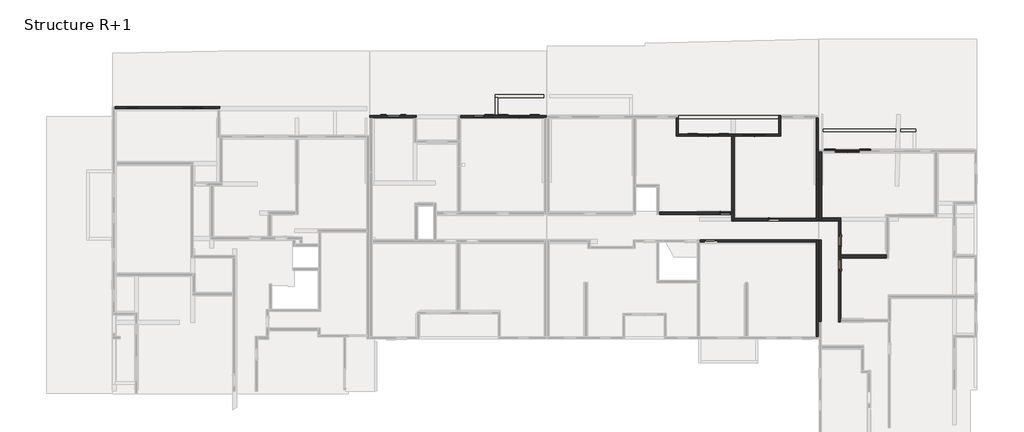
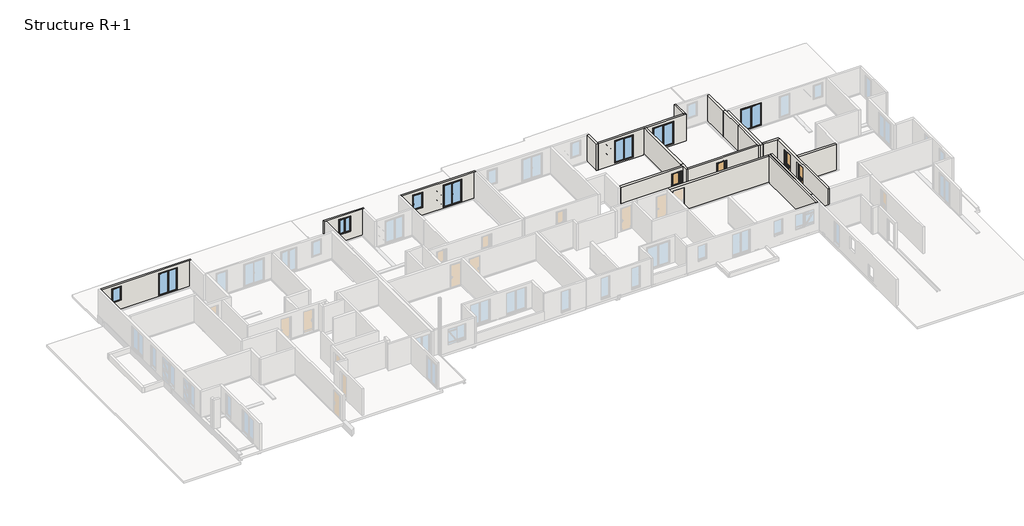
# One storey, part 6 of 11: 25 walls, 8 windows, 4 doors.
"""IFC4 building model written with IfcOpenShell, lengths in millimetres."""

from ifc_helpers import new_model, si_unit, frame, origin, place, context, project, spatial, polyline, outline, extrude, faceted_brep, transform, mapped, element, save
from components import door_88e42b76, door_d45fdbb8, door_280daffa, window_4f2076fb, window_e9bb7084, window_1_vantail_droit_15c7afe6, window_1_60m_x_2_15m_1bfb613b, window_1_60m_x_2_15m_e7e592b5, window_1_60m_x_2_15m_4a639791, window_1_80m_x_2_15m_7d3a4370, window_1_80m_x_2_15m_c17098d0

model = new_model("IFC4")

# Units and contexts
model_context = context("Model", 3, world=origin())
ifc_project = project(units=[si_unit("LENGTHUNIT", "METRE", prefix="MILLI")], contexts=[model_context])

# Site, building, storey
site = spatial("IfcSite", under=ifc_project)
building = spatial("IfcBuilding", under=site)
storey = spatial("IfcBuildingStorey", under=building, Name="Structure R+1", Elevation=3320.0)

# Doors
placement = place(None, origin())
door_shape = door_88e42b76(model_context)
element("IfcDoor", 1, ObjectType="Entrée (avec angle d'ouverture) : PP Avec moulures (0.90 m x 2.15 m)", at=placement, inside=storey, context=model_context, shape_type="MappedRepresentation", body=[
    mapped(door_shape, transform((51897.3928747, 24372.4952381, 3320.0), x_axis=(1.0, 0.0, 0.0), y_axis=(0.0, 1.0, 0.0), z_axis=(0.0, 0.0, 1.0))),
])
door_2_shape = door_d45fdbb8(model_context)
element("IfcDoor", 2, ObjectType="Entrée (avec angle d'ouverture) : PP Avec moulures (0.90 m x 2.15 m)", at=placement, inside=storey, context=model_context, shape_type="MappedRepresentation", body=[
    mapped(door_2_shape, transform((60989.2327219, 20265.8620351, 3320.0), x_axis=(0.0, 1.0, 0.0), y_axis=(-1.0, 0.0, 0.0), z_axis=(0.0, 0.0, 1.0))),
])
door_3_shape = door_280daffa(model_context)
element("IfcDoor", 3, ObjectType="Entrée (avec angle d'ouverture) : PP Avec moulures (0.90 m x 2.15 m)", at=placement, inside=storey, context=model_context, shape_type="MappedRepresentation", body=[
    mapped(door_3_shape, transform((55757.3928747, 23877.4942338, 3320.0), x_axis=(1.0, 0.0, 0.0), y_axis=(0.0, 1.0, 0.0), z_axis=(0.0, 0.0, 1.0))),
])
element("IfcDoor", 4, ObjectType="Entrée (avec angle d'ouverture) : PP Avec moulures (0.90 m x 2.15 m)", at=placement, inside=storey, context=model_context, shape_type="MappedRepresentation", body=[
    mapped(door_3_shape, transform((60989.2327219, 22254.6274913, 3320.0), x_axis=(0.0, -1.0, 0.0), y_axis=(1.0, 0.0, 0.0), z_axis=(0.0, 0.0, 1.0))),
])

# Walls
element("IfcWall", 5, ObjectType="Ext. Voile BA 16 + Isolant 12 sans enduit", at=placement, inside=storey, context=model_context, shape_type="SweptSolid", body=[
    extrude(outline(polyline([(59132.9661689, 27052.4942338), (59132.9661689, 29387.496363), (59292.9661689, 29387.496363), (59292.9661689, 27052.4942338), (59132.9661689, 27052.4942338)])), frame((0.0, 0.0, 3230.0), z_axis=(0.0, 0.0, 1.0), x_axis=(1.0, 0.0, 0.0)), (0.0, 0.0, 1.0), 2600.0),
])
element("IfcWall", 6, ObjectType="Ext. Voile BA 16 + Isolant 120", at=placement, inside=storey, context=model_context, shape_type="Brep", body=[
    faceted_brep([(23871.9389593, 31947.4974719, 3230.0), (24031.9389593, 31947.4974719, 3230.0), (27364.3814808, 31947.4974719, 3230.0), (27524.3814808, 31947.4974719, 3230.0), (27524.3814808, 31947.4974719, 5830.0), (27444.3814808, 31947.4974719, 5830.0), (27364.3814808, 31947.4974719, 5830.0), (24031.9389593, 31947.4974719, 5830.0), (23871.9389593, 31947.4974719, 5830.0), (26224.3814808, 31947.4974719, 4055.0), (25224.3814808, 31947.4974719, 4055.0), (25174.3814808, 31947.4974719, 4055.0), (25174.3814808, 31947.4974719, 5555.0), (26274.3814808, 31947.4974719, 5555.0), (26274.3814808, 31947.4974719, 4055.0), (27524.3814808, 32107.4974719, 3230.0), (23871.9389593, 32107.4974719, 3230.0), (23871.9389593, 32107.4974719, 5830.0), (27444.3814808, 32107.4974719, 5830.0), (27524.3814808, 32107.4974719, 5830.0), (25224.3814808, 32107.4974719, 5505.0), (25224.3814808, 32107.4974719, 3975.0), (26224.3814808, 32107.4974719, 3975.0), (26224.3814808, 32107.4974719, 5505.0), (25224.3814808, 32027.4974719, 4055.0), (25224.3814808, 32027.4974719, 3975.0), (25224.3814808, 32047.4974719, 5505.0), (25224.3814808, 32047.4974719, 4055.0), (26224.3814808, 32027.4974719, 3975.0), (26224.3814808, 32027.4974719, 4055.0), (26224.3814808, 32047.4974719, 4055.0), (26224.3814808, 32047.4974719, 5505.0), (25214.3814808, 32047.4974719, 4055.0), (25214.3814808, 31997.4974719, 4055.0), (25174.3814808, 31997.4974719, 4055.0), (26274.3814808, 31997.4974719, 4055.0), (26234.3814808, 31997.4974719, 4055.0), (26234.3814808, 32047.4974719, 4055.0), (25174.3814808, 31997.4974719, 5555.0), (26274.3814808, 31997.4974719, 5555.0), (25214.3814808, 31997.4974719, 5515.0), (26234.3814808, 31997.4974719, 5515.0), (25214.3814808, 32047.4974719, 5515.0), (26234.3814808, 32047.4974719, 5515.0)], [[[0, 1, 2, 3, 4, 5, 6, 7, 8], [9, 10, 11, 12, 13, 14]], [[15, 16, 17, 18, 19], [20, 21, 22, 23]], [[3, 2, 1, 0, 16, 15]], [[8, 7, 6, 5, 4, 19, 18, 17]], [[4, 3, 15, 19]], [[24, 25, 21, 20, 26, 27]], [[28, 29, 30, 31, 23, 22]], [[24, 27, 32, 33, 34, 11, 10, 9, 14, 35, 36, 37, 30, 29]], [[31, 26, 20, 23]], [[25, 28, 22, 21]], [[25, 24, 29, 28]], [[11, 34, 38, 12]], [[36, 35, 39, 38, 34, 33, 40, 41]], [[33, 32, 42, 40]], [[27, 26, 31, 30, 37, 43, 42, 32]], [[12, 38, 39, 13]], [[41, 40, 42, 43]], [[35, 14, 13, 39]], [[37, 36, 41, 43]], [[8, 17, 16, 0]]]),
])
element("IfcWall", 7, ObjectType="Ext. Voile BA 16 + Isolant 120", at=placement, inside=storey, context=model_context, shape_type="Brep", body=[
    faceted_brep([(30984.3814808, 31947.4972516, 3230.0), (37648.3832806, 31947.4972516, 3230.0), (37808.3832806, 31947.4972516, 3230.0), (37808.3832806, 31947.4972516, 5830.0), (37648.3832806, 31947.4972516, 5830.0), (30984.3814808, 31947.4972516, 5830.0), (32864.3814808, 31947.4972516, 4055.0), (32064.3814808, 31947.4972516, 4055.0), (32014.3814808, 31947.4972516, 4055.0), (32014.3814808, 31947.4972516, 5555.0), (32914.3814808, 31947.4972516, 5555.0), (32914.3814808, 31947.4972516, 4055.0), (36445.3833051, 31947.4972516, 3355.0), (34845.3833051, 31947.4972516, 3355.0), (34795.3833051, 31947.4972516, 3355.0), (34795.3833051, 31947.4972516, 5555.0), (36495.3833051, 31947.4972516, 5555.0), (36495.3833051, 31947.4972516, 3355.0), (37808.3832806, 32107.4972516, 3230.0), (30984.3814808, 32107.4972516, 3230.0), (30984.3814808, 32107.4972516, 5830.0), (37808.3832806, 32107.4972516, 5830.0), (32064.3814808, 32107.4972516, 5505.0), (32064.3814808, 32107.4972516, 3975.0), (32864.3814808, 32107.4972516, 3975.0), (32864.3814808, 32107.4972516, 5505.0), (34845.3833051, 32107.4972516, 5505.0), (34845.3833051, 32107.4972516, 3346.5916612), (36445.3833051, 32107.4972516, 3346.5916612), (36445.3833051, 32107.4972516, 5505.0), (32064.3814808, 32027.4972516, 4055.0), (32064.3814808, 32027.4972516, 3975.0), (32064.3814808, 32047.4972516, 5505.0), (32064.3814808, 32047.4972516, 4055.0), (32864.3814808, 32027.4972516, 3975.0), (32864.3814808, 32027.4972516, 4055.0), (32864.3814808, 32047.4972516, 4055.0), (32864.3814808, 32047.4972516, 5505.0), (32054.3814808, 32047.4972516, 4055.0), (32054.3814808, 31997.4972516, 4055.0), (32014.3814808, 31997.4972516, 4055.0), (32914.3814808, 31997.4972516, 4055.0), (32874.3814808, 31997.4972516, 4055.0), (32874.3814808, 32047.4972516, 4055.0), (32014.3814808, 31997.4972516, 5555.0), (32914.3814808, 31997.4972516, 5555.0), (32054.3814808, 31997.4972516, 5515.0), (32874.3814808, 31997.4972516, 5515.0), (32054.3814808, 32047.4972516, 5515.0), (32874.3814808, 32047.4972516, 5515.0), (34845.3833051, 32047.4972516, 5505.0), (34845.3833051, 32047.4972516, 3355.0), (34845.3833051, 32027.4972516, 3355.0), (36445.3833051, 32027.4972516, 3355.0), (36445.3833051, 32047.4972516, 3355.0), (36445.3833051, 32047.4972516, 5505.0), (34835.3833051, 32047.4972516, 3355.0), (34835.3833051, 31997.4972516, 3355.0), (34795.3833051, 31997.4972516, 3355.0), (36495.3833051, 31997.4972516, 3355.0), (36455.3833051, 31997.4972516, 3355.0), (36455.3833051, 32047.4972516, 3355.0), (34795.3833051, 31997.4972516, 5555.0), (36495.3833051, 31997.4972516, 5555.0), (34835.3833051, 31997.4972516, 5515.0), (36455.3833051, 31997.4972516, 5515.0), (34835.3833051, 32047.4972516, 5515.0), (36455.3833051, 32047.4972516, 5515.0)], [[[0, 1, 2, 3, 4, 5], [6, 7, 8, 9, 10, 11], [12, 13, 14, 15, 16, 17]], [[18, 19, 20, 21], [22, 23, 24, 25], [26, 27, 28, 29]], [[2, 1, 0, 19, 18]], [[5, 4, 3, 21, 20]], [[0, 5, 20, 19]], [[30, 31, 23, 22, 32, 33]], [[34, 35, 36, 37, 25, 24]], [[30, 33, 38, 39, 40, 8, 7, 6, 11, 41, 42, 43, 36, 35]], [[37, 32, 22, 25]], [[31, 34, 24, 23]], [[31, 30, 35, 34]], [[8, 40, 44, 9]], [[42, 41, 45, 44, 40, 39, 46, 47]], [[39, 38, 48, 46]], [[33, 32, 37, 36, 43, 49, 48, 38]], [[9, 44, 45, 10]], [[47, 46, 48, 49]], [[41, 11, 10, 45]], [[43, 42, 47, 49]], [[50, 51, 52, 27, 26]], [[53, 54, 55, 29, 28]], [[52, 51, 56, 57, 58, 14, 13, 12, 17, 59, 60, 61, 54, 53]], [[55, 50, 26, 29]], [[52, 53, 28, 27]], [[14, 58, 62, 15]], [[60, 59, 63, 62, 58, 57, 64, 65]], [[57, 56, 66, 64]], [[51, 50, 55, 54, 61, 67, 66, 56]], [[15, 62, 63, 16]], [[65, 64, 66, 67]], [[59, 17, 16, 63]], [[61, 60, 65, 67]], [[2, 18, 21, 3]]]),
])
element("IfcWall", 8, ObjectType="Ext. Voile BA 16 + Isolant 120", at=placement, inside=storey, context=model_context, shape_type="Brep", body=[
    faceted_brep([(3696.9058449, 32650.6398567, 5830.0), (3696.9058449, 32650.6398567, 3230.0), (11831.9058449, 32650.6398567, 3230.0), (11991.9058449, 32650.6398567, 3230.0), (11991.9058449, 32650.6398567, 5830.0), (11831.9058449, 32650.6398567, 5830.0), (5566.9058449, 32650.6398567, 4155.0), (4666.9058449, 32650.6398567, 4155.0), (4666.9058449, 32650.6398567, 5555.0), (5566.9058449, 32650.6398567, 5555.0), (10721.9058449, 32650.6398567, 3355.0), (9021.9058449, 32650.6398567, 3355.0), (9021.9058449, 32650.6398567, 5555.0), (10721.9058449, 32650.6398567, 5555.0), (3696.9058449, 32810.6398567, 3230.0), (3696.9058449, 32810.6398567, 5830.0), (11991.9058449, 32810.6398567, 5830.0), (11991.9058449, 32810.6398567, 3230.0), (4716.9058449, 32810.6398567, 5505.0), (4716.9058449, 32810.6398567, 4075.0), (5516.9058449, 32810.6398567, 4075.0), (5516.9058449, 32810.6398567, 5505.0), (9071.9058449, 32810.6398567, 5505.0), (9071.9058449, 32810.6398567, 3346.5916612), (10671.9058449, 32810.6398567, 3346.5916612), (10671.9058449, 32810.6398567, 5505.0), (4716.9058449, 32730.6398567, 4155.0), (4716.9058449, 32730.6398567, 4075.0), (4716.9058449, 32750.6398567, 5505.0), (4716.9058449, 32750.6398567, 4155.0), (5516.9058449, 32730.6398567, 4075.0), (5516.9058449, 32730.6398567, 4155.0), (5516.9058449, 32750.6398567, 4155.0), (5516.9058449, 32750.6398567, 5505.0), (4706.9058449, 32750.6398567, 4155.0), (4706.9058449, 32700.6398567, 4155.0), (4666.9058449, 32700.6398567, 4155.0), (5566.9058449, 32700.6398567, 4155.0), (5526.9058449, 32700.6398567, 4155.0), (5526.9058449, 32750.6398567, 4155.0), (4666.9058449, 32700.6398567, 5555.0), (4706.9058449, 32700.6398567, 5515.0), (5526.9058449, 32700.6398567, 5515.0), (5566.9058449, 32700.6398567, 5555.0), (4706.9058449, 32750.6398567, 5515.0), (5526.9058449, 32750.6398567, 5515.0), (9071.9058449, 32730.6398567, 3355.0), (9071.9058449, 32750.6398567, 5505.0), (9071.9058449, 32750.6398567, 3355.0), (10671.9058449, 32730.6398567, 3355.0), (10671.9058449, 32750.6398567, 3355.0), (10671.9058449, 32750.6398567, 5505.0), (9061.9058449, 32750.6398567, 3355.0), (9061.9058449, 32700.6398567, 3355.0), (9021.9058449, 32700.6398567, 3355.0), (10721.9058449, 32700.6398567, 3355.0), (10681.9058449, 32700.6398567, 3355.0), (10681.9058449, 32750.6398567, 3355.0), (9021.9058449, 32700.6398567, 5555.0), (9061.9058449, 32700.6398567, 5515.0), (10681.9058449, 32700.6398567, 5515.0), (10721.9058449, 32700.6398567, 5555.0), (9061.9058449, 32750.6398567, 5515.0), (10681.9058449, 32750.6398567, 5515.0)], [[[0, 1, 2, 3, 4, 5], [6, 7, 8, 9], [10, 11, 12, 13]], [[14, 15, 16, 17], [18, 19, 20, 21], [22, 23, 24, 25]], [[3, 2, 1, 14, 17]], [[0, 5, 4, 16, 15]], [[4, 3, 17, 16]], [[26, 27, 19, 18, 28, 29]], [[30, 31, 32, 33, 21, 20]], [[27, 30, 20, 19]], [[27, 26, 31, 30]], [[18, 21, 33, 28]], [[31, 26, 29, 34, 35, 36, 7, 6, 37, 38, 39, 32]], [[7, 36, 40, 8]], [[36, 35, 41, 42, 38, 37, 43, 40]], [[35, 34, 44, 41]], [[34, 29, 28, 33, 32, 39, 45, 44]], [[8, 40, 43, 9]], [[42, 41, 44, 45]], [[43, 37, 6, 9]], [[38, 42, 45, 39]], [[46, 23, 22, 47, 48]], [[24, 49, 50, 51, 25]], [[46, 49, 24, 23]], [[22, 25, 51, 47]], [[49, 46, 48, 52, 53, 54, 11, 10, 55, 56, 57, 50]], [[11, 54, 58, 12]], [[54, 53, 59, 60, 56, 55, 61, 58]], [[53, 52, 62, 59]], [[52, 48, 47, 51, 50, 57, 63, 62]], [[12, 58, 61, 13]], [[60, 59, 62, 63]], [[61, 55, 10, 13]], [[56, 60, 63, 57]], [[0, 15, 14, 1]]]),
])
element("IfcWall", 9, ObjectType="Ext. Voile BA 16 + Isolant 120", at=placement, inside=storey, context=model_context, shape_type="Brep", body=[
    faceted_brep([(48060.3941376, 31927.4960094, 5830.0), (48060.3941376, 31927.4960094, 3320.0), (48060.3941376, 31927.4960094, 3230.0), (48060.3941376, 31857.4959984, 3230.0), (48060.3941376, 30468.4145164, 3230.0), (48060.3941376, 30468.4145164, 5830.0), (48220.3941376, 31927.4960094, 3230.0), (48220.3941376, 31927.4960094, 5830.0), (48220.3941376, 30628.4145164, 5830.0), (48220.3941376, 30468.4145164, 5830.0), (48220.3941376, 30468.4145164, 3230.0), (48220.3941376, 30628.4145164, 3230.0), (48220.3941376, 31857.4959984, 3230.0), (48220.3941376, 31887.4960094, 3230.0)], [[[0, 1, 2, 3, 4, 5]], [[6, 7, 8, 9, 10, 11, 12, 13]], [[4, 3, 2, 6, 13, 12, 11, 10]], [[0, 5, 9, 8, 7]], [[0, 7, 6, 2, 1]], [[5, 4, 10, 9]]]),
])
element("IfcWall", 10, ObjectType="Ext. Voile BA 16 + Isolant 120", at=placement, inside=storey, context=model_context, shape_type="Brep", body=[
    faceted_brep([(48220.3941376, 30468.4145164, 3230.0), (52417.3928747, 30468.4145164, 3230.0), (52467.3928747, 30468.4145164, 3230.0), (52667.3928747, 30468.4145164, 3230.0), (52717.3928747, 30468.4145164, 3230.0), (56314.3903552, 30468.4145164, 3230.0), (56314.3903552, 30468.4145164, 5830.0), (52667.3928747, 30468.4145164, 5830.0), (52467.3928747, 30468.4145164, 5830.0), (48220.3941376, 30468.4145164, 5830.0), (51452.3928747, 30468.4145164, 3355.0), (49752.3928747, 30468.4145164, 3355.0), (49752.3928747, 30468.4145164, 5555.0), (51452.3928747, 30468.4145164, 5555.0), (55167.3928747, 30468.4145164, 3355.0), (53267.3928747, 30468.4145164, 3355.0), (53267.3928747, 30468.4145164, 5555.0), (55167.3928747, 30468.4145164, 5555.0), (48220.3941376, 30628.4145164, 3230.0), (48220.3941376, 30628.4145164, 5830.0), (56154.3903552, 30628.4145164, 5830.0), (56314.3903552, 30628.4145164, 5830.0), (56314.3903552, 30628.4145164, 3230.0), (56154.3903552, 30628.4145164, 3230.0), (52717.3928747, 30628.4145164, 3230.0), (52417.3928747, 30628.4145164, 3230.0), (51402.3928747, 30628.4145164, 3346.5916612), (51402.3928747, 30628.4145164, 5505.0), (49802.3928747, 30628.4145164, 5505.0), (49802.3928747, 30628.4145164, 3346.5916612), (53317.3928747, 30628.4145164, 5505.0), (53317.3928747, 30628.4145164, 3346.5916612), (55117.3928747, 30628.4145164, 3346.5916612), (55117.3928747, 30628.4145164, 5505.0), (51402.3928747, 30548.4145164, 3355.0), (51402.3928747, 30568.4145164, 3355.0), (51402.3928747, 30568.4145164, 5505.0), (49802.3928747, 30568.4145164, 5505.0), (49802.3928747, 30568.4145164, 3355.0), (49802.3928747, 30548.4145164, 3355.0), (49792.3928747, 30568.4145164, 3355.0), (49792.3928747, 30518.4145164, 3355.0), (49752.3928747, 30518.4145164, 3355.0), (51452.3928747, 30518.4145164, 3355.0), (51412.3928747, 30518.4145164, 3355.0), (51412.3928747, 30568.4145164, 3355.0), (51452.3928747, 30518.4145164, 5555.0), (49752.3928747, 30518.4145164, 5555.0), (49792.3928747, 30518.4145164, 5515.0), (51412.3928747, 30518.4145164, 5515.0), (51412.3928747, 30568.4145164, 5515.0), (49792.3928747, 30568.4145164, 5515.0), (53317.3928747, 30548.4145164, 3355.0), (53317.3928747, 30568.4145164, 5505.0), (53317.3928747, 30568.4145164, 3355.0), (55117.3928747, 30548.4145164, 3355.0), (55117.3928747, 30568.4145164, 3355.0), (55117.3928747, 30568.4145164, 5505.0), (53307.3928747, 30568.4145164, 3355.0), (53307.3928747, 30518.4145164, 3355.0), (53267.3928747, 30518.4145164, 3355.0), (55167.3928747, 30518.4145164, 3355.0), (55127.3928747, 30518.4145164, 3355.0), (55127.3928747, 30568.4145164, 3355.0), (53267.3928747, 30518.4145164, 5555.0), (53307.3928747, 30518.4145164, 5515.0), (55127.3928747, 30518.4145164, 5515.0), (55167.3928747, 30518.4145164, 5555.0), (53307.3928747, 30568.4145164, 5515.0), (55127.3928747, 30568.4145164, 5515.0)], [[[0, 1, 2, 3, 4, 5, 6, 7, 8, 9], [10, 11, 12, 13], [14, 15, 16, 17]], [[18, 19, 20, 21, 22, 23, 24, 25], [26, 27, 28, 29], [30, 31, 32, 33]], [[5, 4, 3, 2, 1, 0, 18, 25, 24, 23, 22]], [[9, 8, 7, 6, 21, 20, 19]], [[6, 5, 22, 21]], [[34, 35, 36, 27, 26]], [[29, 28, 37, 38, 39]], [[34, 26, 29, 39]], [[27, 36, 37, 28]], [[39, 38, 40, 41, 42, 11, 10, 43, 44, 45, 35, 34]], [[10, 13, 46, 43]], [[43, 46, 47, 42, 41, 48, 49, 44]], [[44, 49, 50, 45]], [[45, 50, 51, 40, 38, 37, 36, 35]], [[13, 12, 47, 46]], [[48, 51, 50, 49]], [[47, 12, 11, 42]], [[41, 40, 51, 48]], [[52, 31, 30, 53, 54]], [[32, 55, 56, 57, 33]], [[52, 55, 32, 31]], [[30, 33, 57, 53]], [[55, 52, 54, 58, 59, 60, 15, 14, 61, 62, 63, 56]], [[15, 60, 64, 16]], [[60, 59, 65, 66, 62, 61, 67, 64]], [[59, 58, 68, 65]], [[58, 54, 53, 57, 56, 63, 69, 68]], [[16, 64, 67, 17]], [[66, 65, 68, 69]], [[67, 61, 14, 17]], [[62, 66, 69, 63]], [[0, 9, 19, 18]]]),
])
element("IfcWall", 11, ObjectType="Ext. Voile BA 16 + Isolant 120", at=placement, inside=storey, context=model_context, shape_type="Brep", body=[
    faceted_brep([(56314.3903552, 30628.4145164, 3230.0), (56314.3903552, 31857.4959984, 3230.0), (56314.3903552, 31927.496363, 3230.0), (56314.3903552, 32087.496363, 3230.0), (56314.3903552, 32087.496363, 5830.0), (56314.3903552, 31927.496363, 5830.0), (56314.3903552, 30628.4145164, 5830.0), (56154.3903552, 30628.4145164, 3230.0), (56154.3903552, 30628.4145164, 5830.0), (56154.3903552, 32087.496363, 5830.0), (56154.3903552, 32087.496363, 3380.0), (56154.3903552, 32087.496363, 3230.0), (56154.3903552, 31887.4960094, 3230.0), (56154.3903552, 31857.4959984, 3230.0)], [[[0, 1, 2, 3, 4, 5, 6]], [[7, 8, 9, 10, 11, 12, 13]], [[3, 2, 1, 0, 7, 13, 12, 11]], [[6, 5, 4, 9, 8]], [[0, 6, 8, 7]], [[3, 11, 10, 9, 4]]]),
])
element("IfcWall", 12, ObjectType="Ext. Voile BA 16 + Isolant 120", at=placement, inside=storey, context=model_context, shape_type="Brep", body=[
    faceted_brep([(59132.9661689, 31927.496363, 3230.0), (59132.9661689, 31857.4959984, 3230.0), (59132.9661689, 29387.496363, 3230.0), (59132.9661689, 29387.496363, 5830.0), (59132.9661689, 31927.496363, 5830.0), (59132.9661689, 31927.496363, 3320.0), (59292.9661689, 31927.496363, 3230.0), (59292.9661689, 31927.496363, 5830.0), (59292.9661689, 29387.496363, 5830.0), (59292.9661689, 29387.496363, 3230.0)], [[[0, 1, 2, 3, 4, 5]], [[6, 7, 8, 9]], [[2, 1, 0, 6, 9]], [[3, 2, 9, 8]], [[4, 3, 8, 7]], [[0, 5, 4, 7, 6]]]),
])
element("IfcWall", 13, ObjectType="Ext. Voile BA 20", at=placement, inside=storey, context=model_context, shape_type="Brep", body=[
    faceted_brep([(48220.3941376, 31887.4960094, 3230.0), (56154.3903552, 31887.4960094, 3230.0), (56154.3903552, 31887.4960094, 3320.0), (56154.3903552, 31887.4960094, 3380.0), (48220.3941376, 31887.4960094, 3380.0), (48220.3941376, 31887.4960094, 3320.0), (48220.3941376, 32087.4960094, 3230.0), (48220.3941376, 32087.4960094, 3380.0), (56154.3903552, 32087.4960094, 3380.0), (56154.3903552, 32087.4960094, 3230.0), (48220.3941376, 31927.4960094, 3230.0)], [[[0, 1, 2, 3, 4, 5]], [[6, 7, 8, 9]], [[1, 0, 10, 6, 9]], [[4, 3, 8, 7]], [[0, 5, 4, 7, 6, 10]], [[3, 2, 1, 9, 8]]]),
])
element("IfcWall", 14, ObjectType="Voile BA 16", at=placement, inside=storey, context=model_context, shape_type="Brep", body=[
    faceted_brep([(59292.9632272, 23787.4942338, 3230.0), (59292.9632272, 27052.4942338, 3230.0), (59292.9632272, 27052.4942338, 5830.0), (59292.9632272, 23787.4942338, 5830.0), (59132.9632272, 23787.4942338, 3230.0), (59132.9632272, 23787.4942338, 5830.0), (59132.9632272, 23967.4942338, 5830.0), (59132.9632272, 27052.4942338, 5830.0), (59132.9632272, 27052.4942338, 3230.0), (59132.9632272, 26646.6200522, 3230.0), (59132.9632272, 23967.4942338, 3230.0)], [[[0, 1, 2, 3]], [[4, 5, 6, 7, 8, 9, 10]], [[1, 0, 4, 10, 9, 8]], [[2, 1, 8, 7]], [[3, 2, 7, 6, 5]], [[0, 3, 5, 4]]]),
])
element("IfcWall", 15, ObjectType="Voile BA 16", at=placement, inside=storey, context=model_context, shape_type="SweptSolid", body=[
    extrude(outline(polyline([(59512.9059955, 22280.4427829), (59512.9059955, 15804.7371469), (59352.9059955, 15804.7371469), (59352.9059955, 22280.4427829), (59512.9059955, 22280.4427829)])), frame((0.0, 0.0, 3230.0), z_axis=(0.0, 0.0, 1.0), x_axis=(1.0, 0.0, 0.0)), (0.0, 0.0, 1.0), 2600.0),
])
element("IfcWall", 16, ObjectType="Voile BA 16", at=placement, inside=storey, context=model_context, shape_type="Brep", body=[
    faceted_brep([(59132.9632272, 22277.4949823, 3230.0), (59132.9632272, 22097.4949823, 3230.0), (59132.9632272, 22002.4949823, 3230.0), (59132.9632272, 14617.838074, 3230.0), (59132.9632272, 14617.838074, 5830.0), (59132.9632272, 22097.4949823, 5830.0), (59132.9632272, 22277.4949823, 5830.0), (59292.9632272, 22277.4949823, 3230.0), (59292.9632272, 22277.4949823, 5830.0), (59292.9632272, 14617.838074, 5830.0), (59292.9632272, 14617.838074, 3230.0), (59292.1504559, 22277.4949823, 3230.0)], [[[0, 1, 2, 3, 4, 5, 6]], [[7, 8, 9, 10]], [[3, 2, 1, 0, 11, 7, 10]], [[6, 5, 4, 9, 8]], [[4, 3, 10, 9]], [[0, 6, 8, 7, 11]]]),
])
element("IfcWall", 17, ObjectType="Voile BA 18 + 6 + 1", at=placement, inside=storey, context=model_context, shape_type="Brep", body=[
    faceted_brep([(52667.3928747, 23787.4942338, 3230.0), (59132.9632272, 23787.4942338, 3230.0), (59132.9632272, 23787.4942338, 5830.0), (52667.3928747, 23787.4942338, 5830.0), (55287.3928747, 23787.4942338, 5480.0), (56207.3928747, 23787.4942338, 5480.0), (56207.3928747, 23787.4942338, 3320.0), (55287.3928747, 23787.4942338, 3320.0), (59132.9632272, 23967.4942338, 3230.0), (52667.3928747, 23967.4942338, 3230.0), (52667.3928747, 23967.4942338, 5830.0), (59132.9632272, 23967.4942338, 5830.0), (56207.3928747, 23967.4942338, 3320.0), (56237.3928747, 23967.4942338, 3320.0), (56237.3928747, 23967.4942338, 5510.0), (55257.3928747, 23967.4942338, 5510.0), (55257.3928747, 23967.4942338, 3320.0), (55287.3928747, 23967.4942338, 3320.0), (55287.3928747, 23867.4942338, 5480.0), (56207.3928747, 23867.4942338, 5480.0), (56207.3928747, 23867.4942338, 3320.0), (56222.3928747, 23867.4942338, 3320.0), (56222.3928747, 23910.4942338, 3320.0), (56237.3928747, 23910.4942338, 3320.0), (55257.3928747, 23910.4942338, 3320.0), (55272.3928747, 23910.4942338, 3320.0), (55272.3928747, 23867.4942338, 3320.0), (55287.3928747, 23867.4942338, 3320.0), (56222.3928747, 23910.4942338, 5495.0), (55272.3928747, 23910.4942338, 5495.0), (55257.3928747, 23910.4942338, 5510.0), (56237.3928747, 23910.4942338, 5510.0), (55272.3928747, 23867.4942338, 5495.0), (56222.3928747, 23867.4942338, 5495.0)], [[[0, 1, 2, 3], [4, 5, 6, 7]], [[8, 9, 10, 11], [12, 13, 14, 15, 16, 17]], [[1, 0, 9, 8]], [[3, 2, 11, 10]], [[0, 3, 10, 9]], [[18, 19, 5, 4]], [[20, 21, 22, 23, 13, 12, 17, 16, 24, 25, 26, 27, 7, 6]], [[19, 20, 6, 5]], [[27, 18, 4, 7]], [[23, 22, 28, 29, 25, 24, 30, 31]], [[24, 16, 15, 30]], [[31, 30, 15, 14]], [[13, 23, 31, 14]], [[26, 25, 29, 32]], [[19, 18, 27, 26, 32, 33, 21, 20]], [[29, 28, 33, 32]], [[22, 21, 33, 28]], [[2, 1, 8, 11]]]),
])
element("IfcWall", 18, ObjectType="Voile BA 18 + 6 + 1", at=placement, inside=storey, context=model_context, shape_type="Brep", body=[
    faceted_brep([(60899.2327219, 23787.4942629, 3230.0), (60899.2327219, 23762.4942338, 3230.0), (60899.2327219, 15804.7366595, 3230.0), (60899.2327219, 15804.7366595, 3320.0), (60899.2327219, 15804.7366595, 5830.0), (60899.2327219, 23787.4942629, 5830.0), (60899.2327219, 23787.4942629, 3320.0), (60899.2327219, 22724.6274913, 5480.0), (60899.2327219, 21804.6274913, 5480.0), (60899.2327219, 21804.6274913, 3320.0), (60899.2327219, 22724.6274913, 3320.0), (60899.2327219, 20715.8620351, 5480.0), (60899.2327219, 19795.8620351, 5480.0), (60899.2327219, 19795.8620351, 3320.0), (60899.2327219, 20715.8620351, 3320.0), (61079.2327219, 15804.7366595, 3230.0), (61079.2327219, 15984.7366595, 3230.0), (61079.2327219, 20864.6274913, 3230.0), (61079.2327219, 21064.6274913, 3230.0), (61079.2327219, 23762.4942338, 3230.0), (61079.2327219, 23787.4942629, 3230.0), (61079.2327219, 23787.4942629, 5830.0), (61079.2327219, 21064.6274913, 5830.0), (61079.2327219, 20864.6274913, 5830.0), (61079.2327219, 15984.7366595, 5830.0), (61079.2327219, 15804.7366595, 5830.0), (61079.2327219, 21804.6274913, 3320.0), (61079.2327219, 21774.6274913, 3320.0), (61079.2327219, 21774.6274913, 5510.0), (61079.2327219, 22754.6274913, 5510.0), (61079.2327219, 22754.6274913, 3320.0), (61079.2327219, 22724.6274913, 3320.0), (61079.2327219, 19795.8620351, 3320.0), (61079.2327219, 19765.8620351, 3320.0), (61079.2327219, 19765.8620351, 5510.0), (61079.2327219, 20745.8620351, 5510.0), (61079.2327219, 20745.8620351, 3320.0), (61079.2327219, 20715.8620351, 3320.0), (60979.2327219, 22724.6274913, 5480.0), (60979.2327219, 21804.6274913, 5480.0), (60979.2327219, 21804.6274913, 3320.0), (60979.2327219, 21789.6274913, 3320.0), (61022.2327219, 21789.6274913, 3320.0), (61022.2327219, 21774.6274913, 3320.0), (61022.2327219, 22754.6274913, 3320.0), (61022.2327219, 22739.6274913, 3320.0), (60979.2327219, 22739.6274913, 3320.0), (60979.2327219, 22724.6274913, 3320.0), (61022.2327219, 21789.6274913, 5495.0), (61022.2327219, 22739.6274913, 5495.0), (61022.2327219, 22754.6274913, 5510.0), (61022.2327219, 21774.6274913, 5510.0), (60979.2327219, 22739.6274913, 5495.0), (60979.2327219, 21789.6274913, 5495.0), (60979.2327219, 20715.8620351, 5480.0), (60979.2327219, 19795.8620351, 5480.0), (60979.2327219, 20730.8620351, 3320.0), (60979.2327219, 20715.8620351, 3320.0), (60979.2327219, 19795.8620351, 3320.0), (60979.2327219, 19780.8620351, 3320.0), (61022.2327219, 19780.8620351, 3320.0), (61022.2327219, 19765.8620351, 3320.0), (61022.2327219, 20745.8620351, 3320.0), (61022.2327219, 20730.8620351, 3320.0), (61022.2327219, 20745.8620351, 5510.0), (61022.2327219, 19765.8620351, 5510.0), (61022.2327219, 19780.8620351, 5495.0), (61022.2327219, 20730.8620351, 5495.0), (60979.2327219, 19780.8620351, 5495.0), (60979.2327219, 20730.8620351, 5495.0)], [[[0, 1, 2, 3, 4, 5, 6], [7, 8, 9, 10], [11, 12, 13, 14]], [[15, 16, 17, 18, 19, 20, 21, 22, 23, 24, 25], [26, 27, 28, 29, 30, 31], [32, 33, 34, 35, 36, 37]], [[2, 1, 0, 20, 19, 18, 17, 16, 15]], [[5, 4, 25, 24, 23, 22, 21]], [[38, 39, 8, 7]], [[40, 41, 42, 43, 27, 26, 31, 30, 44, 45, 46, 47, 10, 9]], [[39, 40, 9, 8]], [[47, 38, 7, 10]], [[43, 42, 48, 49, 45, 44, 50, 51]], [[44, 30, 29, 50]], [[51, 50, 29, 28]], [[27, 43, 51, 28]], [[46, 45, 49, 52]], [[39, 38, 47, 46, 52, 53, 41, 40]], [[49, 48, 53, 52]], [[42, 41, 53, 48]], [[54, 55, 12, 11]], [[56, 57, 14, 13, 58, 59, 60, 61, 33, 32, 37, 36, 62, 63]], [[57, 54, 11, 14]], [[55, 58, 13, 12]], [[63, 62, 64, 65, 61, 60, 66, 67]], [[33, 61, 65, 34]], [[65, 64, 35, 34]], [[62, 36, 35, 64]], [[60, 59, 68, 66]], [[55, 54, 57, 56, 69, 68, 59, 58]], [[67, 66, 68, 69]], [[56, 63, 67, 69]], [[4, 3, 2, 15, 25]], [[20, 0, 6, 5, 21]]]),
])
element("IfcWall", 19, ObjectType="Voile BA 18 + 6 + 1", at=placement, inside=storey, context=model_context, shape_type="Brep", body=[
    faceted_brep([(49925.0121044, 22097.4949823, 3230.0), (59132.9632272, 22097.4949823, 3230.0), (59132.9632272, 22097.4949823, 5830.0), (49925.0121044, 22097.4949823, 5830.0), (50355.0121044, 22097.4949823, 3320.0), (50325.0121044, 22097.4949823, 3320.0), (50325.0121044, 22097.4949823, 5510.0), (51305.0121044, 22097.4949823, 5510.0), (51305.0121044, 22097.4949823, 3320.0), (51275.0121044, 22097.4949823, 3320.0), (59132.9632272, 22277.4949823, 3230.0), (49925.0121044, 22277.4949823, 3230.0), (49925.0121044, 22277.4949823, 5830.0), (59132.9632272, 22277.4949823, 5830.0), (51275.0121044, 22277.4949823, 5480.0), (50355.0121044, 22277.4949823, 5480.0), (50355.0121044, 22277.4949823, 3320.0), (51275.0121044, 22277.4949823, 3320.0), (51275.0121044, 22197.4949823, 5480.0), (50355.0121044, 22197.4949823, 5480.0), (50355.0121044, 22197.4949823, 3320.0), (50340.0121044, 22197.4949823, 3320.0), (50340.0121044, 22154.4949823, 3320.0), (50325.0121044, 22154.4949823, 3320.0), (51305.0121044, 22154.4949823, 3320.0), (51290.0121044, 22154.4949823, 3320.0), (51290.0121044, 22197.4949823, 3320.0), (51275.0121044, 22197.4949823, 3320.0), (50340.0121044, 22154.4949823, 5495.0), (51290.0121044, 22154.4949823, 5495.0), (51305.0121044, 22154.4949823, 5510.0), (50325.0121044, 22154.4949823, 5510.0), (51290.0121044, 22197.4949823, 5495.0), (50340.0121044, 22197.4949823, 5495.0)], [[[0, 1, 2, 3], [4, 5, 6, 7, 8, 9]], [[10, 11, 12, 13], [14, 15, 16, 17]], [[1, 0, 11, 10]], [[3, 2, 13, 12]], [[2, 1, 10, 13]], [[18, 19, 15, 14]], [[20, 21, 22, 23, 5, 4, 9, 8, 24, 25, 26, 27, 17, 16]], [[19, 20, 16, 15]], [[27, 18, 14, 17]], [[23, 22, 28, 29, 25, 24, 30, 31]], [[24, 8, 7, 30]], [[31, 30, 7, 6]], [[5, 23, 31, 6]], [[26, 25, 29, 32]], [[19, 18, 27, 26, 32, 33, 21, 20]], [[29, 28, 33, 32]], [[22, 21, 33, 28]], [[0, 3, 12, 11]]]),
])
element("IfcWall", 20, ObjectType="Voile BA 20", at=placement, inside=storey, context=model_context, shape_type="Brep", body=[
    faceted_brep([(52467.3928747, 30468.4145164, 3230.0), (52467.3928747, 24628.4145164, 3230.0), (52467.3928747, 24628.4145164, 5830.0), (52467.3928747, 30468.4145164, 5830.0), (52467.3928747, 30468.4145164, 3320.0), (52667.3928747, 30468.4145164, 3230.0), (52667.3928747, 30468.4145164, 3320.0), (52667.3928747, 30468.4145164, 5830.0), (52667.3928747, 24628.4145164, 5830.0), (52667.3928747, 24628.4145164, 3230.0)], [[[0, 1, 2, 3, 4]], [[5, 6, 7, 8, 9]], [[1, 0, 5, 9]], [[2, 1, 9, 8]], [[3, 2, 8, 7]], [[0, 4, 3, 7, 6, 5]]]),
])
element("IfcWall", 21, ObjectType="Voile BA 20", at=placement, inside=storey, context=model_context, shape_type="Brep", body=[
    faceted_brep([(64648.1802895, 21064.6274913, 3230.0), (61122.5915763, 21064.6274913, 3230.0), (61079.2327219, 21064.6274913, 3230.0), (61079.2327219, 21064.6274913, 3320.0), (61079.2327219, 21064.6274913, 5830.0), (64648.1802895, 21064.6274913, 5830.0), (64648.1802895, 20864.6274913, 3230.0), (64648.1802895, 20864.6274913, 5830.0), (61079.2327219, 20864.6274913, 5830.0), (61079.2327219, 20864.6274913, 3320.0), (61079.2327219, 20864.6274913, 3230.0), (61122.5915763, 20864.6274913, 3230.0)], [[[0, 1, 2, 3, 4, 5]], [[6, 7, 8, 9, 10, 11]], [[2, 1, 0, 6, 11, 10]], [[5, 4, 8, 7]], [[4, 3, 2, 10, 9, 8]], [[0, 5, 7, 6]]]),
])
element("IfcWall", 22, ObjectType="Voile BA 20", at=placement, inside=storey, context=model_context, shape_type="Brep", body=[
    faceted_brep([(59353.0074525, 29221.5866004, 5830.0), (59353.0074525, 29221.5866004, 3230.0), (59353.0074525, 23787.4942629, 3230.0), (59353.0074525, 23787.4942629, 5830.0), (59553.0074525, 29221.5866004, 3230.0), (59553.0074525, 29221.5866004, 3320.0), (59553.0074525, 29221.5866004, 5830.0), (59553.0074525, 23987.4942629, 5830.0), (59553.0074525, 23787.4942629, 5830.0), (59553.0074525, 23787.4942629, 3230.0), (59553.0074525, 23987.4942629, 3230.0), (59553.0074525, 26629.847462, 3230.0)], [[[0, 1, 2, 3]], [[4, 5, 6, 7, 8, 9, 10, 11]], [[2, 1, 4, 11, 10, 9]], [[0, 3, 8, 7, 6]], [[3, 2, 9, 8]], [[0, 6, 5, 4, 1]]]),
])
element("IfcWall", 23, ObjectType="Voile BA 20", at=placement, inside=storey, context=model_context, shape_type="SweptSolid", body=[
    extrude(outline(polyline([(33777.8612376, 33747.494317), (37598.3832806, 33747.494317), (37598.3832806, 33547.494317), (33777.8612376, 33547.494317), (33777.8612376, 33747.494317)])), frame((0.0, 0.0, 2710.0), z_axis=(0.0, 0.0, 1.0), x_axis=(1.0, 0.0, 0.0)), (0.0, 0.0, 1.0), 520.0),
])
element("IfcWall", 24, ObjectType="Voile BA 20", at=placement, inside=storey, context=model_context, shape_type="SweptSolid", body=[
    extrude(outline(polyline([(33777.8612376, 31947.4972516), (33777.8612376, 33547.4915585), (33977.8612376, 33547.4915585), (33977.8612376, 31947.4972516), (33777.8612376, 31947.4972516)])), frame((0.0, 0.0, 2710.0), z_axis=(0.0, 0.0, 1.0), x_axis=(1.0, 0.0, 0.0)), (0.0, 0.0, 1.0), 520.0),
])
element("IfcWall", 25, ObjectType="Voile BA 20", at=placement, inside=storey, context=model_context, shape_type="SweptSolid", body=[
    extrude(outline(polyline([(11903.2321127, 32800.6398567), (21011.383495, 32800.6398567), (21011.383495, 32600.6398567), (11903.2321127, 32600.6398567), (11903.2321127, 32800.6398567)])), frame((0.0, 0.0, 2710.0), z_axis=(0.0, 0.0, 1.0), x_axis=(1.0, 0.0, 0.0)), (0.0, 0.0, 1.0), 520.0),
])
element("IfcWall", 26, ObjectType="Voile BA 20", at=placement, inside=storey, context=model_context, shape_type="SweptSolid", body=[
    extrude(outline(polyline([(67000.298274, 30841.5836658), (59562.998512, 30841.5836658), (59562.998512, 31041.5836658), (67000.298274, 31041.5836658), (67000.298274, 30841.5836658)])), frame((0.0, 0.0, 2710.0), z_axis=(0.0, 0.0, 1.0), x_axis=(1.0, 0.0, 0.0)), (0.0, 0.0, 1.0), 520.0),
])
element("IfcWall", 27, ObjectType="Voile BA 20 + Isolant 60", at=placement, inside=storey, context=model_context, shape_type="Brep", body=[
    faceted_brep([(46710.3925697, 24272.4952381, 3230.0), (49724.9149229, 24272.4952381, 3230.0), (52417.3928747, 24272.4952381, 3230.0), (52467.3928747, 24272.4952381, 3230.0), (52467.3928747, 24272.4952381, 3320.0), (52467.3928747, 24272.4952381, 5830.0), (46710.3925697, 24272.4952381, 5830.0), (51427.3928747, 24272.4952381, 5480.0), (52347.3928747, 24272.4952381, 5480.0), (52347.3928747, 24272.4952381, 3320.0), (51427.3928747, 24272.4952381, 3320.0), (52467.3928747, 24472.4952381, 3230.0), (52417.3928747, 24472.4952381, 3230.0), (49724.9149229, 24472.4952381, 3230.0), (46710.3925697, 24472.4952381, 3230.0), (46710.3925697, 24472.4952381, 5830.0), (52467.3928747, 24472.4952381, 5830.0), (52467.3928747, 24472.4952381, 3320.0), (52347.3928747, 24472.4952381, 3320.0), (52377.3928747, 24472.4952381, 3320.0), (52377.3928747, 24472.4952381, 5510.0), (51397.3928747, 24472.4952381, 5510.0), (51397.3928747, 24472.4952381, 3320.0), (51427.3928747, 24472.4952381, 3320.0), (51427.3928747, 24372.4952381, 5480.0), (52347.3928747, 24372.4952381, 5480.0), (52347.3928747, 24372.4952381, 3320.0), (52362.3928747, 24372.4952381, 3320.0), (52362.3928747, 24415.4952381, 3320.0), (52377.3928747, 24415.4952381, 3320.0), (51397.3928747, 24415.4952381, 3320.0), (51412.3928747, 24415.4952381, 3320.0), (51412.3928747, 24372.4952381, 3320.0), (51427.3928747, 24372.4952381, 3320.0), (52362.3928747, 24415.4952381, 5495.0), (51412.3928747, 24415.4952381, 5495.0), (51397.3928747, 24415.4952381, 5510.0), (52377.3928747, 24415.4952381, 5510.0), (51412.3928747, 24372.4952381, 5495.0), (52362.3928747, 24372.4952381, 5495.0)], [[[0, 1, 2, 3, 4, 5, 6], [7, 8, 9, 10]], [[11, 12, 13, 14, 15, 16, 17], [18, 19, 20, 21, 22, 23]], [[3, 2, 1, 0, 14, 13, 12, 11]], [[6, 5, 16, 15]], [[0, 6, 15, 14]], [[5, 4, 3, 11, 17, 16]], [[24, 25, 8, 7]], [[26, 27, 28, 29, 19, 18, 23, 22, 30, 31, 32, 33, 10, 9]], [[25, 26, 9, 8]], [[33, 24, 7, 10]], [[29, 28, 34, 35, 31, 30, 36, 37]], [[30, 22, 21, 36]], [[37, 36, 21, 20]], [[19, 29, 37, 20]], [[32, 31, 35, 38]], [[25, 24, 33, 32, 38, 39, 27, 26]], [[35, 34, 39, 38]], [[28, 27, 39, 34]]]),
])
element("IfcWall", 28, ObjectType="Voile BA 20 + Isolant 60", at=placement, inside=storey, context=model_context, shape_type="Brep", body=[
    faceted_brep([(52467.3928747, 24628.4145164, 3230.0), (52467.3928747, 24472.4952381, 3230.0), (52467.3928747, 24272.4952381, 3230.0), (52467.3928747, 24062.4942338, 3230.0), (52467.3928747, 23787.4942338, 3230.0), (52467.3928747, 23787.4942338, 3320.0), (52467.3928747, 23787.4942338, 5830.0), (52467.3928747, 24272.4952381, 5830.0), (52467.3928747, 24472.4952381, 5830.0), (52467.3928747, 24628.4145164, 5830.0), (52667.3928747, 24628.4145164, 3230.0), (52667.3928747, 24628.4145164, 5830.0), (52667.3928747, 23967.4942338, 5830.0), (52667.3928747, 23787.4942338, 5830.0), (52667.3928747, 23787.4942338, 3230.0), (52667.3928747, 23967.4942338, 3230.0), (52667.3928747, 24062.4942338, 3230.0)], [[[0, 1, 2, 3, 4, 5, 6, 7, 8, 9]], [[10, 11, 12, 13, 14, 15, 16]], [[4, 3, 2, 1, 0, 10, 16, 15, 14]], [[9, 8, 7, 6, 13, 12, 11]], [[0, 9, 11, 10]], [[6, 5, 4, 14, 13]]]),
])
element("IfcWall", 29, ObjectType="Voile BA 20 + Isolant 60", at=placement, inside=storey, context=model_context, shape_type="Brep", body=[
    faceted_brep([(59553.0074525, 23787.4942629, 3230.0), (59571.9773618, 23787.4942629, 3230.0), (60899.2327219, 23787.4942629, 3230.0), (61079.2327219, 23787.4942629, 3230.0), (61079.2327219, 23787.4942629, 5830.0), (60899.2327219, 23787.4942629, 5830.0), (59553.0074525, 23787.4942629, 5830.0), (59553.0074525, 23987.4942629, 3230.0), (59553.0074525, 23987.4942629, 5830.0), (61079.2327219, 23987.4942629, 5830.0), (61079.2327219, 23987.4942629, 3320.0), (61079.2327219, 23987.4942629, 3230.0), (59571.9773618, 23987.4942629, 3230.0)], [[[0, 1, 2, 3, 4, 5, 6]], [[7, 8, 9, 10, 11, 12]], [[3, 2, 1, 0, 7, 12, 11]], [[6, 5, 4, 9, 8]], [[0, 6, 8, 7]], [[4, 3, 11, 10, 9]]]),
])

# Windows
window_shape = window_4f2076fb(model_context)
element("IfcWindow", 30, ObjectType="2 Vantaux droits - Volets et petits bois : 1m x 1.45m - Appui Béton", at=placement, inside=storey, context=model_context, shape_type="MappedRepresentation", body=[
    mapped(window_shape, transform((25724.3814808, 32027.4974719, 3255.0), x_axis=(1.0, 0.0, 0.0), y_axis=(0.0, 1.0, 0.0), z_axis=(0.0, 0.0, 1.0))),
])
window_2_shape = window_e9bb7084(model_context)
element("IfcWindow", 31, ObjectType="1 Vantail droit - Volet et petits bois : 0.80m x 1.45m - Appui Béton", at=placement, inside=storey, context=model_context, shape_type="MappedRepresentation", body=[
    mapped(window_2_shape, transform((32464.3814808, 32027.4972516, 3255.0), x_axis=(1.0, 0.0, 0.0), y_axis=(0.0, 1.0, 0.0), z_axis=(0.0, 0.0, 1.0))),
])
window_1_vantail_droit_shape = window_1_vantail_droit_15c7afe6(model_context)
element("IfcWindow", 32, ObjectType="1 Vantail - Droit : 0.80m x 1.35m - Appui Béton", at=placement, inside=storey, context=model_context, shape_type="MappedRepresentation", body=[
    mapped(window_1_vantail_droit_shape, transform((5116.9058449, 32730.6398567, 3355.0), x_axis=(1.0, 0.0, 0.0), y_axis=(0.0, 1.0, 0.0), z_axis=(0.0, 0.0, 1.0))),
])
window_1_60m_x_2_15m_shape = window_1_60m_x_2_15m_1bfb613b(model_context)
element("IfcWindow", 33, ObjectType="PF 2 Vantaux - Droits : 1.60m x 2.15m", at=placement, inside=storey, context=model_context, shape_type="MappedRepresentation", body=[
    mapped(window_1_60m_x_2_15m_shape, transform((9871.9058449, 32730.6398567, 3320.0), x_axis=(1.0, 0.0, 0.0), y_axis=(0.0, 1.0, 0.0), z_axis=(0.0, 0.0, 1.0))),
])
window_1_60m_x_2_15m_2_shape = window_1_60m_x_2_15m_e7e592b5(model_context)
element("IfcWindow", 34, ObjectType="PF 2 Vantaux droits - Volets et petits bois : 1.60m x 2.15m", at=placement, inside=storey, context=model_context, shape_type="MappedRepresentation", body=[
    mapped(window_1_60m_x_2_15m_2_shape, transform((35645.3833051, 32027.4972516, 3320.0), x_axis=(1.0, 0.0, 0.0), y_axis=(0.0, 1.0, 0.0), z_axis=(0.0, 0.0, 1.0))),
])
window_1_60m_x_2_15m_3_shape = window_1_60m_x_2_15m_4a639791(model_context)
element("IfcWindow", 35, ObjectType="PF 2 Vantaux droits - Volets et petits bois : 1.60m x 2.15m", at=placement, inside=storey, context=model_context, shape_type="MappedRepresentation", body=[
    mapped(window_1_60m_x_2_15m_3_shape, transform((50602.3928747, 30548.4145164, 3320.0), x_axis=(-1.0, 0.0, 0.0), y_axis=(0.0, -1.0, 0.0), z_axis=(0.0, 0.0, 1.0))),
])
window_1_80m_x_2_15m_shape = window_1_80m_x_2_15m_7d3a4370(model_context)
element("IfcWindow", 36, ObjectType="PF 2 Vantaux - Droits : 1.80m x 2.15m", at=placement, inside=storey, context=model_context, shape_type="MappedRepresentation", body=[
    mapped(window_1_80m_x_2_15m_shape, transform((54217.3928747, 30548.4145164, 3320.0), x_axis=(1.0, 0.0, 0.0), y_axis=(0.0, 1.0, 0.0), z_axis=(0.0, 0.0, 1.0))),
])
window_1_80m_x_2_15m_2_shape = window_1_80m_x_2_15m_c17098d0(model_context)
element("IfcWindow", 37, ObjectType="PF 2 Vantaux droits - Volets et petits bois : 1.80m x 2.15m", at=placement, inside=storey, context=model_context, shape_type="MappedRepresentation", body=[
    mapped(window_1_80m_x_2_15m_2_shape, transform((61593.5074193, 29301.5866004, 3320.0), x_axis=(1.0, 0.0, 0.0), y_axis=(0.0, 1.0, 0.0), z_axis=(0.0, 0.0, 1.0))),
])

save(model, "model.ifc")
